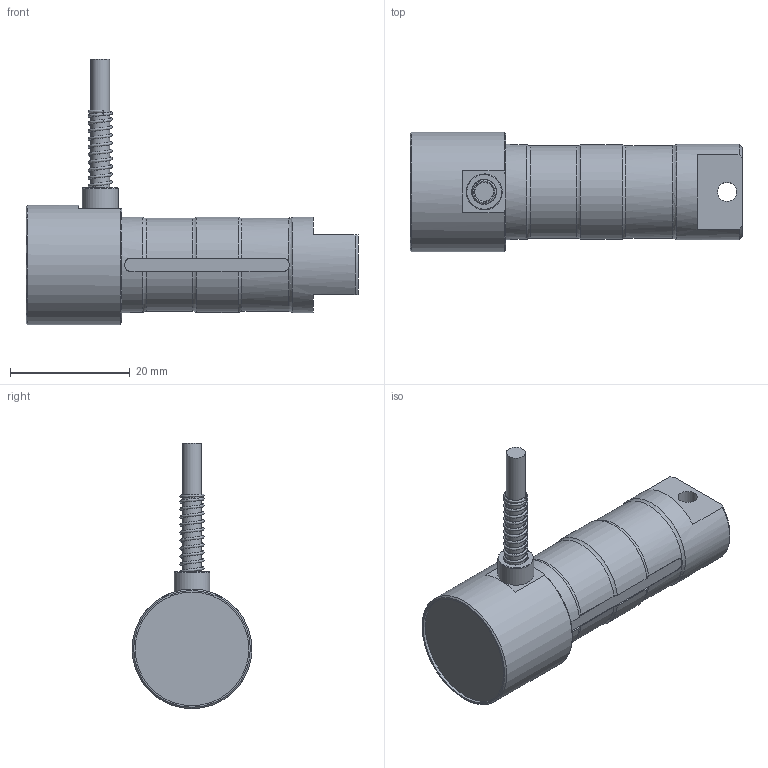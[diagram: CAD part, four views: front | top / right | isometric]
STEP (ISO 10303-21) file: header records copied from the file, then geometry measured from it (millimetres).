
FILE_DESCRIPTION(/* description */ ('Alibre Inc.'),/* implementation_level */ '2;1');
FILE_NAME(/* name */ 'export0',/* time_stamp */ '2017-04-02T09:40:34+02:00',/* author */ (''),/* organization */ (''),/* preprocessor_version */ 'ST-DEVELOPER v14',/* originating_system */ 'Alibre',/* authorisation */ '');
FILE_SCHEMA (('CONFIG_CONTROL_DESIGN'));
Length unit declared in the file: centimetre
Products named in the file (6): ID_1
Bounding box: 55.5 x 20 x 44.37 mm (x, y, z)
Volume: 12308 mm3; surface area: 4482.7 mm2
Topology: 4 solids, 4 shells, 84 faces, 199 edges, 126 vertices
Faces by surface type: plane 29, cylinder 26, bspline 12, torus 9, cone 8
Full cylindrical faces by diameter (mm): 3.15 x1, 3.2 x1, 3.3 x1, 4.2 x1, 5 x1, 5.1 x1, 6 x1, 16 x2, 19 x1, 20 x1
Entity records: 15077 total; most frequent: CARTESIAN_POINT 12865, ORIENTED_EDGE 350, DIRECTION 275, EDGE_CURVE 175, AXIS2_PLACEMENT_3D 129, VERTEX_POINT 121, EDGE_LOOP 110, FACE_BOUND 110
